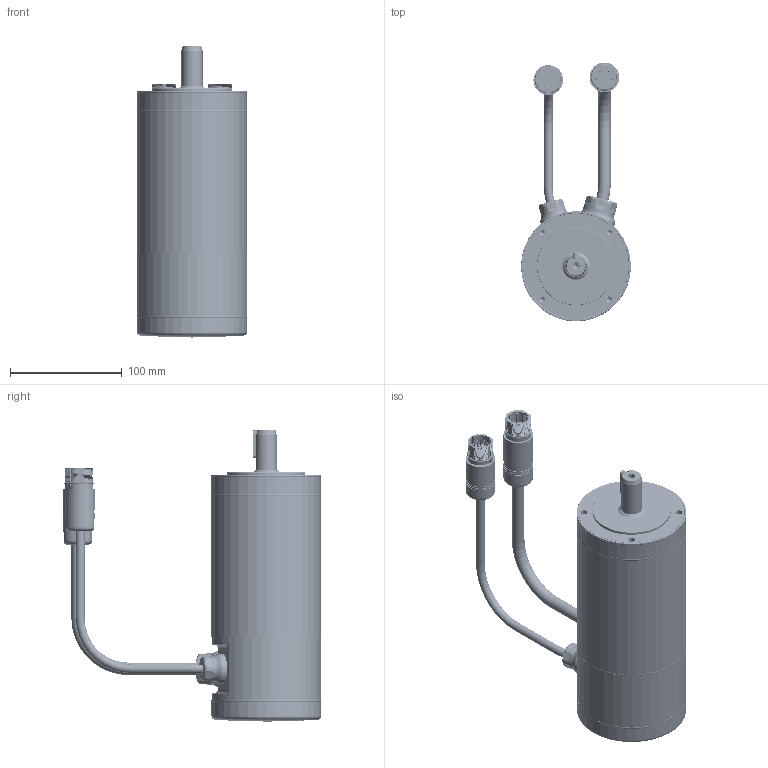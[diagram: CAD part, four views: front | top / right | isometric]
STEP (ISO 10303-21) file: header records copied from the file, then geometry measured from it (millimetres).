
FILE_DESCRIPTION (( 'STEP AP203' ), '1' );
FILE_NAME ('999-001-2156-M532-GK07-02W9-N03S-N.STEP', '2020-08-25T19:28:24', ( '' ), ( '' ), 'SwSTEP 2.0', 'SolidWorks 2019', '' );
FILE_SCHEMA (( 'CONFIG_CONTROL_DESIGN' ));
Length unit declared in the file: inch
Products named in the file (1): 999-001-2156-M532-GK07-02W9-N03S-N
Bounding box: 98.41 x 231.42 x 260.53 mm (x, y, z)
Volume: 823437.1 mm3; surface area: 302927.7 mm2
Topology: 60 solids, 60 shells, 5367 faces, 14107 edges, 9219 vertices
Faces by surface type: plane 1855, cylinder 1822, bspline 1022, torus 416, cone 143, sphere 109
Entity records: 351385 total; most frequent: CARTESIAN_POINT 226685, ORIENTED_EDGE 28088, DIRECTION 23413, EDGE_CURVE 14044, VERTEX_POINT 9219, AXIS2_PLACEMENT_3D 8677, LINE 6059, VECTOR 6059
